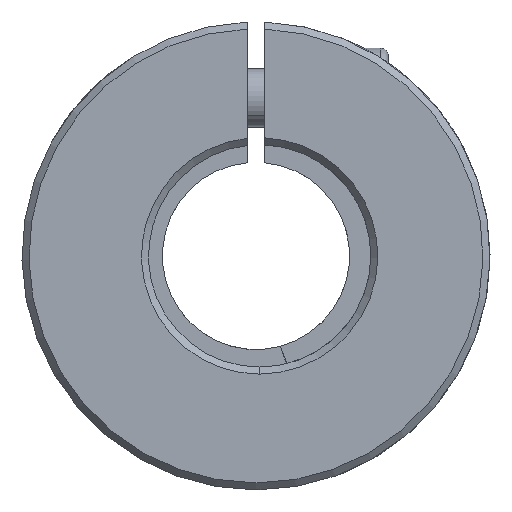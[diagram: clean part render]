
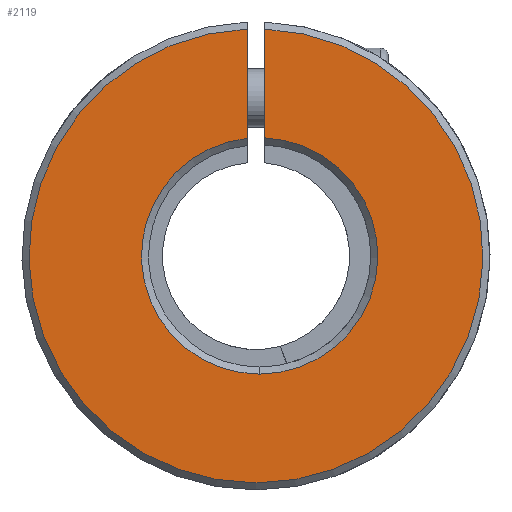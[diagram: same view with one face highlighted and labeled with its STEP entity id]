
A CAD part, front view. The second image highlights one B-rep face of the part: STEP entity #2119.
In plain terms, the highlighted planar face has unit normal (0, -1, 0).
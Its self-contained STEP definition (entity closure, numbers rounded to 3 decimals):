
#27 = ORIENTED_EDGE ( 'NONE', *, *, #4993, .T. ) ;
#136 = CARTESIAN_POINT ( 'NONE',  ( 0.314, -30., 0. ) ) ;
#168 = DIRECTION ( 'NONE',  ( 0., 1., 0. ) ) ;
#425 = LINE ( 'NONE', #3061, #845 ) ;
#458 = DIRECTION ( 'NONE',  ( 0., 0., 1. ) ) ;
#507 = PLANE ( 'NONE',  #2295 ) ;
#688 = EDGE_CURVE ( 'NONE', #2719, #2126, #425, .T. ) ;
#845 = VECTOR ( 'NONE', #4846, 1000. ) ;
#916 = LINE ( 'NONE', #2220, #2265 ) ;
#1262 = EDGE_CURVE ( 'NONE', #3136, #5507, #916, .T. ) ;
#1365 = CARTESIAN_POINT ( 'NONE',  ( 0.314, -30., -10.1 ) ) ;
#1833 = ORIENTED_EDGE ( 'NONE', *, *, #688, .T. ) ;
#1986 = DIRECTION ( 'NONE',  ( 0., 0., 1. ) ) ;
#1990 = ORIENTED_EDGE ( 'NONE', *, *, #3823, .T. ) ;
#2024 = ORIENTED_EDGE ( 'NONE', *, *, #2272, .T. ) ;
#2100 = CARTESIAN_POINT ( 'NONE',  ( 0., -30., 0. ) ) ;
#2119 = ADVANCED_FACE ( 'NONE', ( #4054 ), #507, .F. ) ;
#2126 = VERTEX_POINT ( 'NONE', #2482 ) ;
#2220 = CARTESIAN_POINT ( 'NONE',  ( -0.75, -30., -4. ) ) ;
#2237 = CARTESIAN_POINT ( 'NONE',  ( -0.75, -30., 19.385 ) ) ;
#2265 = VECTOR ( 'NONE', #458, 1000. ) ;
#2272 = EDGE_CURVE ( 'NONE', #5507, #2719, #5751, .T. ) ;
#2295 = AXIS2_PLACEMENT_3D ( 'NONE', #3213, #168, #1986 ) ;
#2404 = VERTEX_POINT ( 'NONE', #1365 ) ;
#2474 = ORIENTED_EDGE ( 'NONE', *, *, #1262, .T. ) ;
#2482 = CARTESIAN_POINT ( 'NONE',  ( 0.75, -30., 10.091 ) ) ;
#2522 = DIRECTION ( 'NONE',  ( 0., 1., 0. ) ) ;
#2719 = VERTEX_POINT ( 'NONE', #2947 ) ;
#2721 = EDGE_LOOP ( 'NONE', ( #1833, #1990, #27, #2474, #2024 ) ) ;
#2947 = CARTESIAN_POINT ( 'NONE',  ( 0.75, -30., 19.385 ) ) ;
#3061 = CARTESIAN_POINT ( 'NONE',  ( 0.75, -30., -4. ) ) ;
#3073 = DIRECTION ( 'NONE',  ( 0., 0., 1. ) ) ;
#3136 = VERTEX_POINT ( 'NONE', #4055 ) ;
#3213 = CARTESIAN_POINT ( 'NONE',  ( 0., -30., 0. ) ) ;
#3224 = AXIS2_PLACEMENT_3D ( 'NONE', #2100, #4407, #3073 ) ;
#3721 = CARTESIAN_POINT ( 'NONE',  ( 0.314, -30., 0. ) ) ;
#3823 = EDGE_CURVE ( 'NONE', #2126, #2404, #3963, .T. ) ;
#3963 = CIRCLE ( 'NONE', #4155, 10.1 ) ;
#4054 = FACE_OUTER_BOUND ( 'NONE', #2721, .T. ) ;
#4055 = CARTESIAN_POINT ( 'NONE',  ( -0.75, -30., 10.044 ) ) ;
#4155 = AXIS2_PLACEMENT_3D ( 'NONE', #3721, #5224, #4762 ) ;
#4311 = DIRECTION ( 'NONE',  ( 0., 0., 1. ) ) ;
#4407 = DIRECTION ( 'NONE',  ( 0., -1., 0. ) ) ;
#4526 = AXIS2_PLACEMENT_3D ( 'NONE', #136, #2522, #4311 ) ;
#4762 = DIRECTION ( 'NONE',  ( 0., 0., 1. ) ) ;
#4846 = DIRECTION ( 'NONE',  ( 0., 0., -1. ) ) ;
#4993 = EDGE_CURVE ( 'NONE', #2404, #3136, #5376, .T. ) ;
#5224 = DIRECTION ( 'NONE',  ( 0., 1., 0. ) ) ;
#5376 = CIRCLE ( 'NONE', #4526, 10.1 ) ;
#5507 = VERTEX_POINT ( 'NONE', #2237 ) ;
#5751 = CIRCLE ( 'NONE', #3224, 19.4 ) ;
